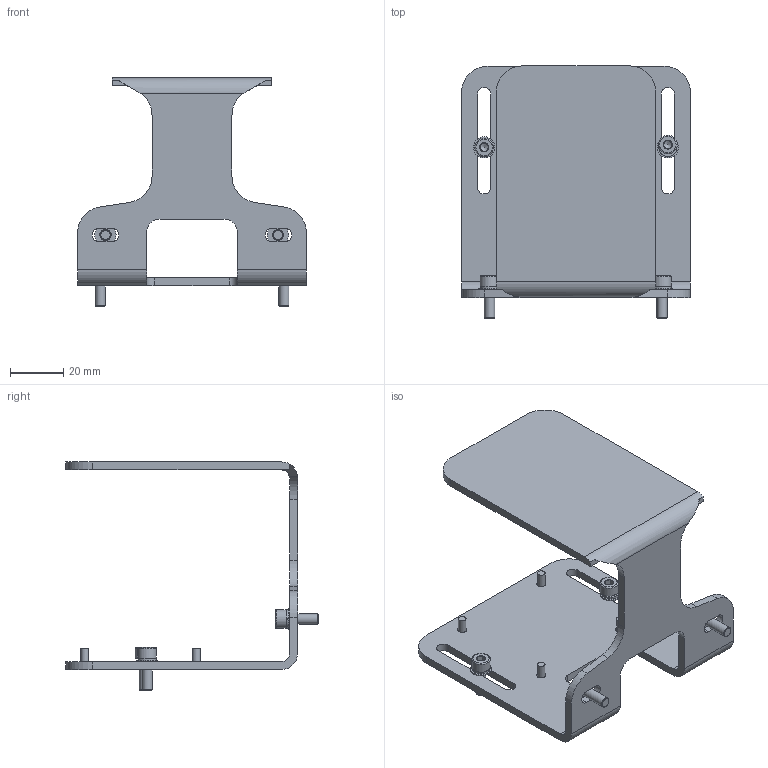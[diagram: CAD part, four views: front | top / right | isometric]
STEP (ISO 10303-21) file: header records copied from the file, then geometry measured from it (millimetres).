
FILE_DESCRIPTION(/* description */ (''),/* implementation_level */ '2;1');
FILE_NAME(/* name */ 'ZJ-FZ_V0.4.stp',/* time_stamp */ '2025-06-30T13:31:32+08:00',/* author */ (''),/* organization */ (''),/* preprocessor_version */ 'ST-DEVELOPER v14',/* originating_system */ 'SIEMENS PLM Software NX 8.0',/* authorisation */ '');
FILE_SCHEMA (('AUTOMOTIVE_DESIGN { 1 0 10303 214 3 1 1 1 }'));
Length unit declared in the file: millimetre
Products named in the file (1): 34734DE86650nlyx
Bounding box: 86 x 94.7 x 85.7 mm (x, y, z)
Volume: 42912.3 mm3; surface area: 33441.8 mm2
Topology: 17 solids, 17 shells, 324 faces, 750 edges, 468 vertices
Faces by surface type: plane 208, cylinder 64, cone 40, torus 12
Full cylindrical faces by diameter (mm): 2.874 x4, 3.5 x4, 3.838 x4, 4.3 x4, 5.5 x4, 7 x4, 8 x4
Entity records: 9053 total; most frequent: CARTESIAN_POINT 1639, DIRECTION 1528, ORIENTED_EDGE 1380, EDGE_CURVE 690, AXIS2_PLACEMENT_3D 541, VERTEX_POINT 466, LINE 446, VECTOR 446
